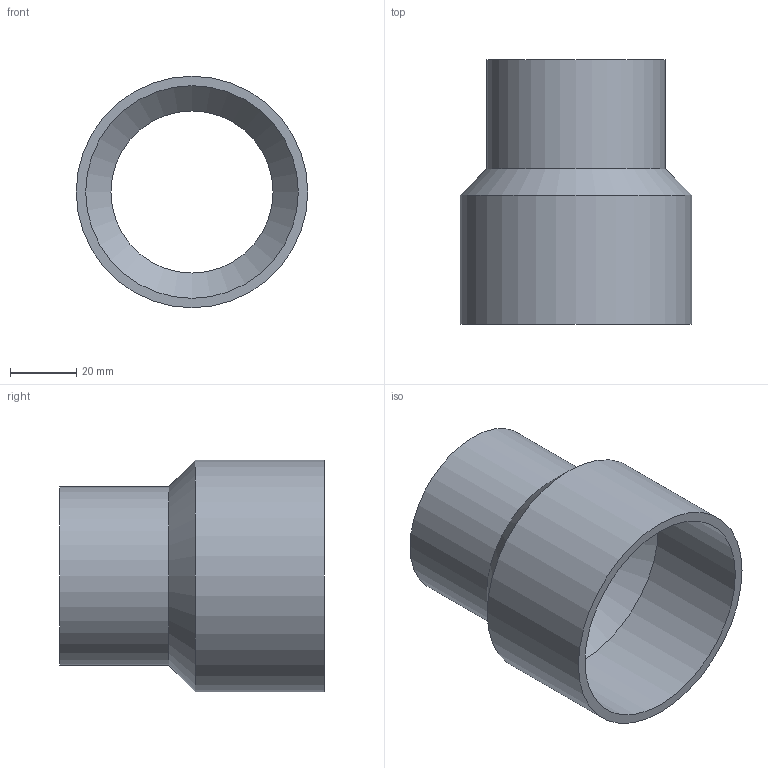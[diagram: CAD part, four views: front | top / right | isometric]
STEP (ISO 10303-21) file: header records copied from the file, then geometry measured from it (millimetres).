
FILE_DESCRIPTION(/* description */ (''),/* implementation_level */ '2;1');
FILE_NAME(/* name */ 'P:\Adapter\Schweißstutzen und Schweißadapter\A 54a_64i.stp',/* time_stamp */ '2019-04-01T13:11:35+02:00',/* author */ ('neufeld'),/* organization */ (''),/* preprocessor_version */ 'ST-DEVELOPER v17',/* originating_system */ 'Autodesk Inventor 2019',/* authorisation */ '');
FILE_SCHEMA (('AUTOMOTIVE_DESIGN { 1 0 10303 214 3 1 1 }'));
Length unit declared in the file: millimetre
Products named in the file (1): A 54a_64i
Bounding box: 70 x 80 x 70 mm (x, y, z)
Volume: 49192.1 mm3; surface area: 32033.3 mm2
Topology: 1 solids, 1 shells, 8 faces, 22 edges, 16 vertices
Faces by surface type: cylinder 4, cone 2, plane 2
Full cylindrical faces by diameter (mm): 49 x1, 54 x1, 64.3 x1, 70 x1
Entity records: 317 total; most frequent: DIRECTION 56, CARTESIAN_POINT 47, ORIENTED_EDGE 44, AXIS2_PLACEMENT_3D 25, EDGE_CURVE 22, CIRCLE 16, VERTEX_POINT 16, EDGE_LOOP 10
